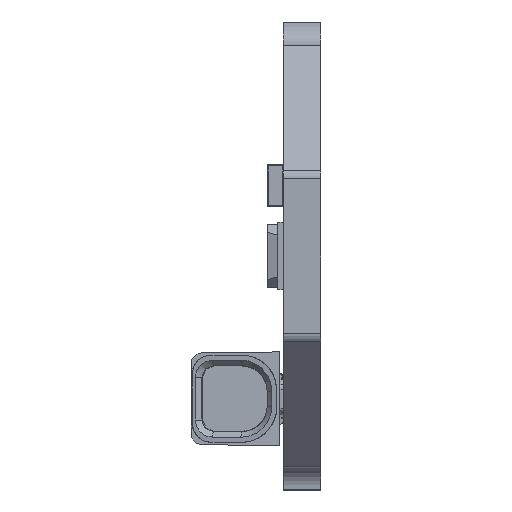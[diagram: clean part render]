
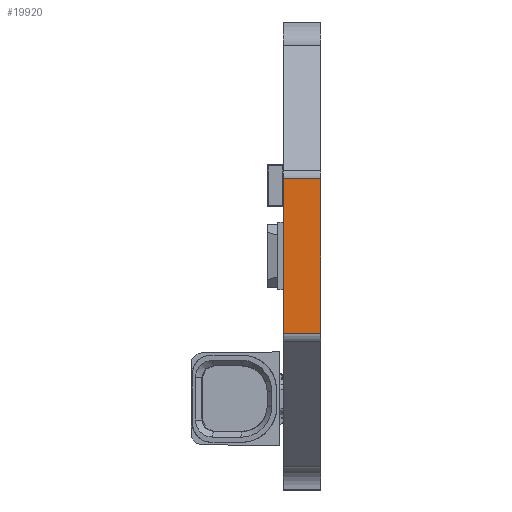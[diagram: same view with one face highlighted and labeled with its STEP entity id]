
A CAD part, left-side view. The second image highlights one B-rep face of the part: STEP entity #19920.
In plain terms, the highlighted planar face has unit normal (-1, 0, 0).
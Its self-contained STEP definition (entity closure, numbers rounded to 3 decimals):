
#1949 = ORIENTED_EDGE ( 'NONE', *, *, #49102, .F. ) ;
#4227 = EDGE_CURVE ( 'NONE', #55052, #45330, #74810, .T. ) ;
#4384 = EDGE_CURVE ( 'NONE', #75808, #28669, #42585, .T. ) ;
#4778 = CARTESIAN_POINT ( 'NONE',  ( 0., 13.293, 1.6 ) ) ;
#4950 = FACE_OUTER_BOUND ( 'NONE', #48139, .T. ) ;
#11306 = DIRECTION ( 'NONE',  ( 0., 0., -1. ) ) ;
#14175 = ORIENTED_EDGE ( 'NONE', *, *, #4384, .F. ) ;
#19920 = ADVANCED_FACE ( 'NONE', ( #4950 ), #56151, .F. ) ;
#20155 = CARTESIAN_POINT ( 'NONE',  ( 0., 13.293, 0. ) ) ;
#21494 = CARTESIAN_POINT ( 'NONE',  ( 0., 13.293, 1.6 ) ) ;
#21627 = AXIS2_PLACEMENT_3D ( 'NONE', #4778, #49909, #11306 ) ;
#22846 = ORIENTED_EDGE ( 'NONE', *, *, #4227, .T. ) ;
#28669 = VERTEX_POINT ( 'NONE', #80119 ) ;
#29501 = EDGE_CURVE ( 'NONE', #75808, #55052, #37438, .T. ) ;
#31064 = VECTOR ( 'NONE', #47474, 1000. ) ;
#31285 = DIRECTION ( 'NONE',  ( 0., 0., -1. ) ) ;
#37438 = LINE ( 'NONE', #50181, #52612 ) ;
#40962 = CARTESIAN_POINT ( 'NONE',  ( 0., 6.707, 1.6 ) ) ;
#42585 = LINE ( 'NONE', #21494, #76747 ) ;
#45161 = ORIENTED_EDGE ( 'NONE', *, *, #29501, .T. ) ;
#45330 = VERTEX_POINT ( 'NONE', #54295 ) ;
#47474 = DIRECTION ( 'NONE',  ( 0., 0., -1. ) ) ;
#48139 = EDGE_LOOP ( 'NONE', ( #22846, #1949, #14175, #45161 ) ) ;
#49102 = EDGE_CURVE ( 'NONE', #28669, #45330, #82449, .T. ) ;
#49909 = DIRECTION ( 'NONE',  ( 1., 0., 0. ) ) ;
#50181 = CARTESIAN_POINT ( 'NONE',  ( 0., 13.293, 1.6 ) ) ;
#51560 = CARTESIAN_POINT ( 'NONE',  ( 0., 13.293, 0. ) ) ;
#52028 = DIRECTION ( 'NONE',  ( 0., -1., 0. ) ) ;
#52612 = VECTOR ( 'NONE', #31285, 1000. ) ;
#54295 = CARTESIAN_POINT ( 'NONE',  ( 0., 6.707, 0. ) ) ;
#55052 = VERTEX_POINT ( 'NONE', #51560 ) ;
#56151 = PLANE ( 'NONE',  #21627 ) ;
#57757 = VECTOR ( 'NONE', #52028, 1000. ) ;
#72968 = DIRECTION ( 'NONE',  ( 0., -1., 0. ) ) ;
#73893 = CARTESIAN_POINT ( 'NONE',  ( 0., 13.293, 1.6 ) ) ;
#74810 = LINE ( 'NONE', #20155, #57757 ) ;
#75808 = VERTEX_POINT ( 'NONE', #73893 ) ;
#76747 = VECTOR ( 'NONE', #72968, 1000. ) ;
#80119 = CARTESIAN_POINT ( 'NONE',  ( 0., 6.707, 1.6 ) ) ;
#82449 = LINE ( 'NONE', #40962, #31064 ) ;
